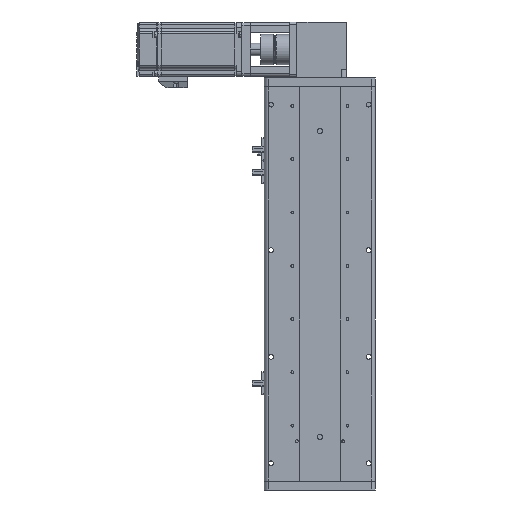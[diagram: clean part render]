
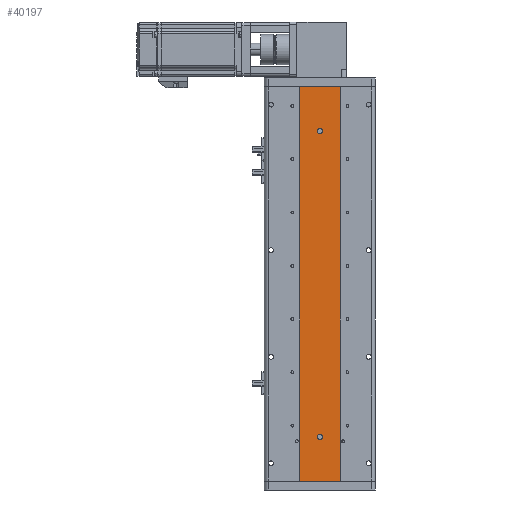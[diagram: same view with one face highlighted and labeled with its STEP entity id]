
A CAD part, front view. The second image highlights one B-rep face of the part: STEP entity #40197.
In plain terms, the highlighted planar face has unit normal (0, -1, 0).
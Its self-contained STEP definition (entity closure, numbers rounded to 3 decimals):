
#816 = ORIENTED_EDGE ( 'NONE', *, *, #25960, .T. ) ;
#1587 = DIRECTION ( 'NONE',  ( 0., 0., -1. ) ) ;
#1861 = CARTESIAN_POINT ( 'NONE',  ( 23., 1., 222. ) ) ;
#2200 = EDGE_CURVE ( 'NONE', #58205, #24931, #37811, .T. ) ;
#2686 = CARTESIAN_POINT ( 'NONE',  ( 23., 1., 222.001 ) ) ;
#3048 = EDGE_CURVE ( 'NONE', #50167, #12276, #42299, .T. ) ;
#5921 = CARTESIAN_POINT ( 'NONE',  ( 0., 1., 172. ) ) ;
#6093 = FACE_BOUND ( 'NONE', #41248, .T. ) ;
#6151 = CARTESIAN_POINT ( 'NONE',  ( 23., 1., -222. ) ) ;
#6858 = CARTESIAN_POINT ( 'NONE',  ( 0., 1., -169. ) ) ;
#7152 = PLANE ( 'NONE',  #27177 ) ;
#7961 = EDGE_LOOP ( 'NONE', ( #816, #18650, #46036, #30477 ) ) ;
#8073 = DIRECTION ( 'NONE',  ( 0., -1., 0. ) ) ;
#8473 = ORIENTED_EDGE ( 'NONE', *, *, #38550, .F. ) ;
#10435 = DIRECTION ( 'NONE',  ( 0., 0., -1. ) ) ;
#11750 = DIRECTION ( 'NONE',  ( 1., 0., 0. ) ) ;
#12276 = VERTEX_POINT ( 'NONE', #53057 ) ;
#12552 = CARTESIAN_POINT ( 'NONE',  ( 0., 1., -172. ) ) ;
#16178 = DIRECTION ( 'NONE',  ( 0., 0., 1. ) ) ;
#17043 = DIRECTION ( 'NONE',  ( 0., 0., -1. ) ) ;
#18073 = FACE_OUTER_BOUND ( 'NONE', #7961, .T. ) ;
#18097 = CARTESIAN_POINT ( 'NONE',  ( -23., 1., 222.001 ) ) ;
#18640 = CIRCLE ( 'NONE', #24493, 3. ) ;
#18650 = ORIENTED_EDGE ( 'NONE', *, *, #2200, .T. ) ;
#20549 = CARTESIAN_POINT ( 'NONE',  ( 0., 1., 172. ) ) ;
#22369 = LINE ( 'NONE', #43205, #55482 ) ;
#23347 = CARTESIAN_POINT ( 'NONE',  ( 0., 1., 175. ) ) ;
#24051 = VERTEX_POINT ( 'NONE', #1861 ) ;
#24493 = AXIS2_PLACEMENT_3D ( 'NONE', #12552, #44009, #17043 ) ;
#24931 = VERTEX_POINT ( 'NONE', #49085 ) ;
#25064 = DIRECTION ( 'NONE',  ( 0., 0., -1. ) ) ;
#25068 = VERTEX_POINT ( 'NONE', #46138 ) ;
#25832 = VECTOR ( 'NONE', #32887, 1000. ) ;
#25960 = EDGE_CURVE ( 'NONE', #51648, #58205, #35797, .T. ) ;
#26191 = VECTOR ( 'NONE', #1587, 1000. ) ;
#26354 = CIRCLE ( 'NONE', #43276, 3. ) ;
#26355 = EDGE_CURVE ( 'NONE', #51648, #24051, #22369, .T. ) ;
#27177 = AXIS2_PLACEMENT_3D ( 'NONE', #2686, #43143, #16178 ) ;
#30477 = ORIENTED_EDGE ( 'NONE', *, *, #26355, .F. ) ;
#31670 = EDGE_CURVE ( 'NONE', #24051, #24931, #50147, .T. ) ;
#32571 = AXIS2_PLACEMENT_3D ( 'NONE', #5921, #37389, #10435 ) ;
#32887 = DIRECTION ( 'NONE',  ( 1., 0., 0. ) ) ;
#34366 = VECTOR ( 'NONE', #49565, 1000. ) ;
#34603 = EDGE_CURVE ( 'NONE', #52004, #25068, #53268, .T. ) ;
#34997 = CARTESIAN_POINT ( 'NONE',  ( 0., 1., -172. ) ) ;
#35797 = LINE ( 'NONE', #18097, #34366 ) ;
#37389 = DIRECTION ( 'NONE',  ( 0., -1., 0. ) ) ;
#37811 = LINE ( 'NONE', #6151, #25832 ) ;
#38550 = EDGE_CURVE ( 'NONE', #12276, #50167, #26354, .T. ) ;
#39523 = DIRECTION ( 'NONE',  ( 0., 0., -1. ) ) ;
#40197 = ADVANCED_FACE ( 'NONE', ( #40558, #6093, #18073 ), #7152, .F. ) ;
#40558 = FACE_BOUND ( 'NONE', #45300, .T. ) ;
#41248 = EDGE_LOOP ( 'NONE', ( #48655, #44416 ) ) ;
#41305 = EDGE_CURVE ( 'NONE', #25068, #52004, #18640, .T. ) ;
#42299 = CIRCLE ( 'NONE', #32571, 3. ) ;
#43143 = DIRECTION ( 'NONE',  ( 0., 1., 0. ) ) ;
#43205 = CARTESIAN_POINT ( 'NONE',  ( 23., 1., 222. ) ) ;
#43276 = AXIS2_PLACEMENT_3D ( 'NONE', #20549, #52028, #25064 ) ;
#43515 = CARTESIAN_POINT ( 'NONE',  ( -23., 1., -222. ) ) ;
#44009 = DIRECTION ( 'NONE',  ( 0., -1., 0. ) ) ;
#44416 = ORIENTED_EDGE ( 'NONE', *, *, #34603, .F. ) ;
#44990 = ORIENTED_EDGE ( 'NONE', *, *, #3048, .F. ) ;
#45300 = EDGE_LOOP ( 'NONE', ( #8473, #44990 ) ) ;
#46036 = ORIENTED_EDGE ( 'NONE', *, *, #31670, .F. ) ;
#46138 = CARTESIAN_POINT ( 'NONE',  ( 0., 1., -175. ) ) ;
#48655 = ORIENTED_EDGE ( 'NONE', *, *, #41305, .F. ) ;
#49085 = CARTESIAN_POINT ( 'NONE',  ( 23., 1., -222. ) ) ;
#49565 = DIRECTION ( 'NONE',  ( 0., 0., -1. ) ) ;
#50147 = LINE ( 'NONE', #55275, #26191 ) ;
#50167 = VERTEX_POINT ( 'NONE', #23347 ) ;
#51648 = VERTEX_POINT ( 'NONE', #53659 ) ;
#52004 = VERTEX_POINT ( 'NONE', #6858 ) ;
#52028 = DIRECTION ( 'NONE',  ( 0., -1., 0. ) ) ;
#53057 = CARTESIAN_POINT ( 'NONE',  ( 0., 1., 169. ) ) ;
#53268 = CIRCLE ( 'NONE', #54776, 3. ) ;
#53659 = CARTESIAN_POINT ( 'NONE',  ( -23., 1., 222. ) ) ;
#54776 = AXIS2_PLACEMENT_3D ( 'NONE', #34997, #8073, #39523 ) ;
#55275 = CARTESIAN_POINT ( 'NONE',  ( 23., 1., 222.001 ) ) ;
#55482 = VECTOR ( 'NONE', #11750, 1000. ) ;
#58205 = VERTEX_POINT ( 'NONE', #43515 ) ;
